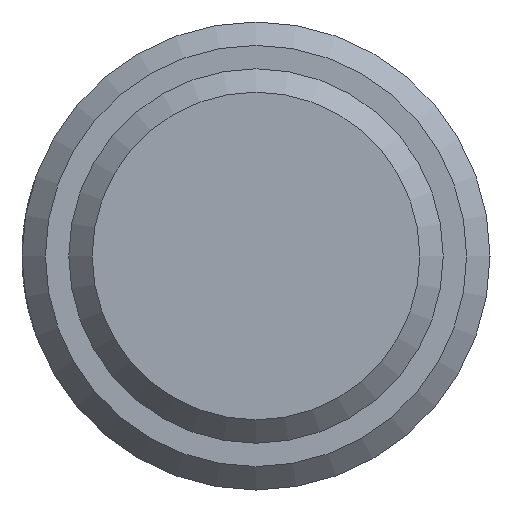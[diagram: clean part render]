
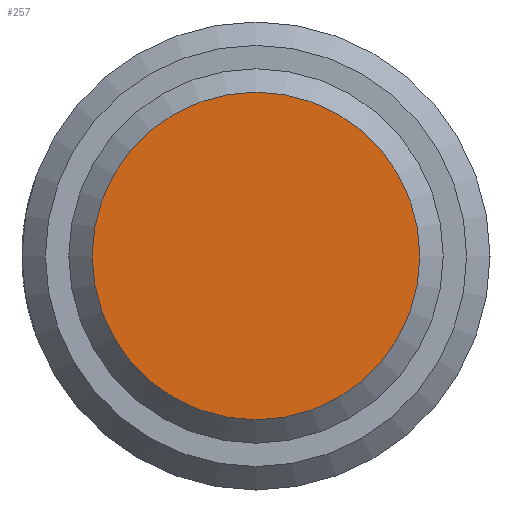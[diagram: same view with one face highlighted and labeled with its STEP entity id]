
A CAD part, left-side view. The second image highlights one B-rep face of the part: STEP entity #257.
In plain terms, the highlighted planar face has unit normal (-1, 0, 0).
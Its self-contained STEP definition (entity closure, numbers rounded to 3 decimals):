
#18=PLANE('',#310);
#43=FACE_OUTER_BOUND('',#62,.T.);
#62=EDGE_LOOP('',(#216));
#112=CIRCLE('',#309,7.);
#134=VERTEX_POINT('',#489);
#164=EDGE_CURVE('',#134,#134,#112,.T.);
#216=ORIENTED_EDGE('',*,*,#164,.F.);
#257=ADVANCED_FACE('',(#43),#18,.T.);
#309=AXIS2_PLACEMENT_3D('',#491,#373,#374);
#310=AXIS2_PLACEMENT_3D('',#492,#375,#376);
#373=DIRECTION('center_axis',(1.,0.,0.));
#374=DIRECTION('ref_axis',(0.,-1.,0.));
#375=DIRECTION('center_axis',(-1.,0.,0.));
#376=DIRECTION('ref_axis',(0.,0.,1.));
#489=CARTESIAN_POINT('',(0.,7.,0.));
#491=CARTESIAN_POINT('Origin',(0.,0.,0.));
#492=CARTESIAN_POINT('Origin',(0.,4.,0.));
